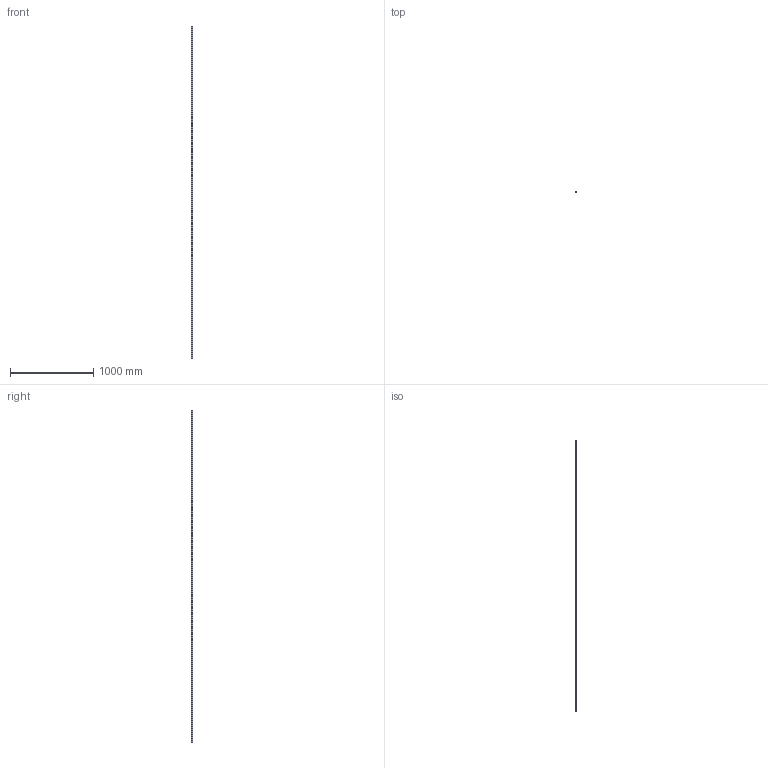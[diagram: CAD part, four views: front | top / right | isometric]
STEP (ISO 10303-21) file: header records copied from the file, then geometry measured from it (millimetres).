
FILE_DESCRIPTION (( 'STEP AP214' ), '1' );
FILE_NAME ('B15-4000-0054-0046.step', '2021-10-15T05:26:40', ( '' ), ( '' ), 'SwSTEP 2.0', 'SolidWorks 2010', '' );
FILE_SCHEMA (( 'AUTOMOTIVE_DESIGN' ));
Length unit declared in the file: millimetre
Products named in the file (1): B15-4000-0054-0046
Bounding box: 15 x 14 x 4000 mm (x, y, z)
Volume: 721956.7 mm3; surface area: 245028.5 mm2
Topology: 1 solids, 1 shells, 293 faces, 741 edges, 384 vertices
Faces by surface type: cylinder 135, cone 132, plane 26
Entity records: 7819 total; most frequent: DIRECTION 1467, CARTESIAN_POINT 1287, ORIENTED_EDGE 1218, EDGE_CURVE 609, AXIS2_PLACEMENT_3D 564, VERTEX_POINT 384, EDGE_LOOP 359, LINE 339
